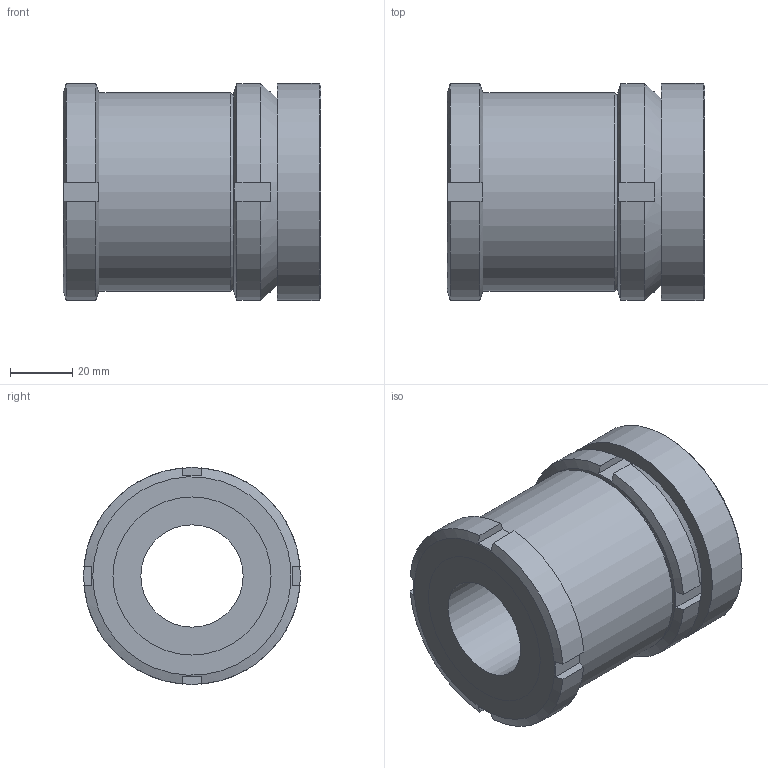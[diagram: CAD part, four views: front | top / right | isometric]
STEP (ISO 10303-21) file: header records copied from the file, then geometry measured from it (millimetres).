
FILE_DESCRIPTION( ( 'STEP AP203' ), '1' );
FILE_NAME( 'C:/Temp/Ganter_Step_05_03_2020/data/3_2/gn350_2/gn_350_2_ni/Stainless Steel-Levelling set GN 350.2-70-33-83-NI (0-0).stp', '2020-03-13T05:28:16', ( 'License CC BY-ND 4.0' ), ( 'CADENAS' ), ' ', 'PARTsolutions', ' ' );
FILE_SCHEMA( ( 'CONFIG_CONTROL_DESIGN' ) );
Length unit declared in the file: millimetre
Products named in the file (4): Stainless Steel-Levelling set GN 350.2-70-33-83-NI (0-0); _Levelling set GN 350.2-70-33-83-ST-G; _Levelling set GN 350.2-70-33-83-ST-K; _Levelling set GN 350.2-70-33-83-ST-P(0)
Assembly tree (3 placements, depth 2):
  Stainless Steel-Levelling set GN 350.2-70-33-83-NI (0-0)
    _Levelling set GN 350.2-70-33-83-ST-G
    _Levelling set GN 350.2-70-33-83-ST-K
    _Levelling set GN 350.2-70-33-83-ST-P(0)
Bounding box: 83 x 70 x 70 mm (x, y, z)
Volume: 210285.9 mm3; surface area: 60209 mm2
Topology: 3 solids, 3 shells, 62 faces, 149 edges, 99 vertices
Faces by surface type: plane 36, cylinder 19, cone 5, sphere 2
Full cylindrical faces by diameter (mm): 33 x1, 40 x1, 43.529 x1, 44.5 x1, 48.376 x1, 49 x1, 50 x1, 51 x2, 64 x1, 70 x1
Entity records: 1925 total; most frequent: CARTESIAN_POINT 462, DIRECTION 276, ORIENTED_EDGE 248, EDGE_CURVE 124, AXIS2_PLACEMENT_3D 122, EDGE_LOOP 92, VERTEX_POINT 92, FACE_OUTER_BOUND 75
